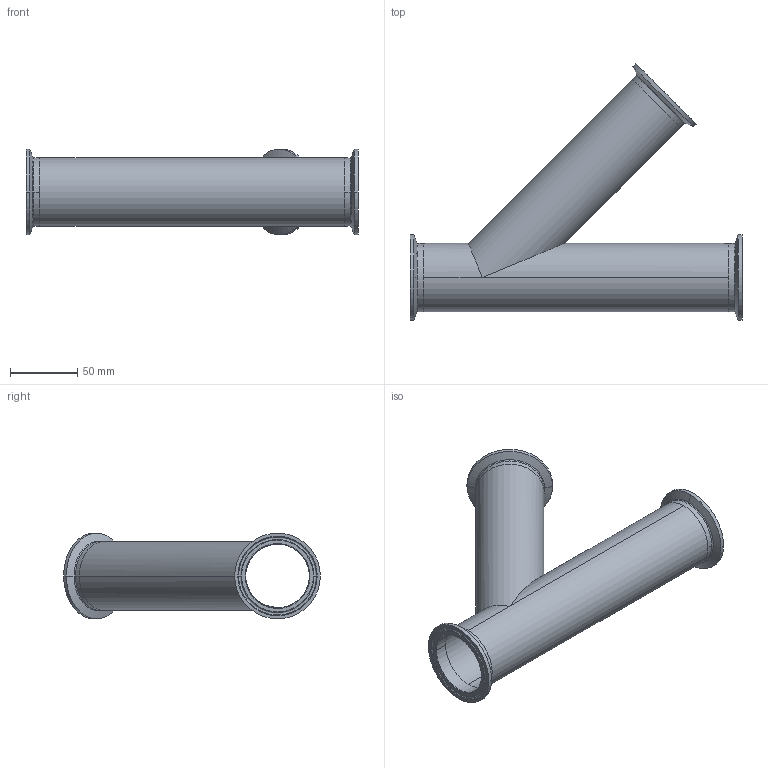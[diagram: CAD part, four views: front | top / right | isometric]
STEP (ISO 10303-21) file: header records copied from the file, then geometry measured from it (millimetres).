
FILE_DESCRIPTION (( 'STEP AP214' ), '1' );
FILE_NAME ('TEG28A6L2.0-...STEP', '2016-05-25T04:36:22', ( 'eran' ), ( '' ), 'SwSTEP 2.0', 'SolidWorks 2016', '' );
FILE_SCHEMA (( 'AUTOMOTIVE_DESIGN' ));
Length unit declared in the file: millimetre
Products named in the file (1): TEG28A6L2.0-..
Bounding box: 247.7 x 191.51 x 63.91 mm (x, y, z)
Volume: 114652.4 mm3; surface area: 131587.7 mm2
Topology: 4 solids, 4 shells, 88 faces, 210 edges, 132 vertices
Faces by surface type: bspline 30, cylinder 28, cone 18, plane 12
Entity records: 4547 total; most frequent: CARTESIAN_POINT 2483, DIRECTION 438, ORIENTED_EDGE 420, EDGE_CURVE 210, AXIS2_PLACEMENT_3D 195, CIRCLE 136, VERTEX_POINT 132, EDGE_LOOP 100
